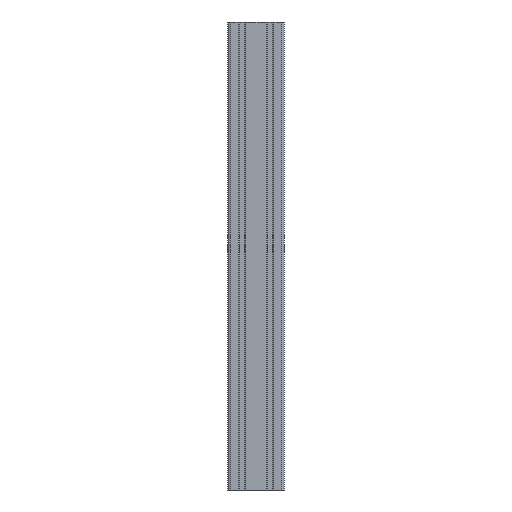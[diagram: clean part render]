
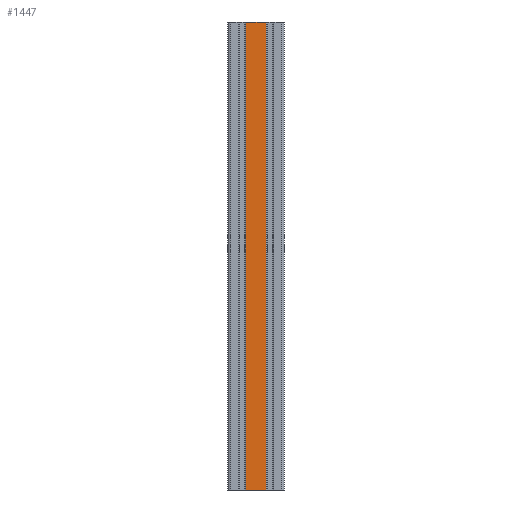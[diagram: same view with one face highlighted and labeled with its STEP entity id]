
A CAD part, left-side view. The second image highlights one B-rep face of the part: STEP entity #1447.
In plain terms, the highlighted planar face has unit normal (-1, 0, 0).
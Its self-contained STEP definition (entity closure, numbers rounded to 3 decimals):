
#1071 = VERTEX_POINT ( 'NONE', #5793 ) ;
#1072 = EDGE_CURVE ( 'NONE', #1073, #1071, #5782, .T. ) ;
#1073 = VERTEX_POINT ( 'NONE', #5784 ) ;
#1440 = ORIENTED_EDGE ( 'NONE', *, *, #1072, .F. ) ;
#1441 = ORIENTED_EDGE ( 'NONE', *, *, #1448, .F. ) ;
#1442 = EDGE_LOOP ( 'NONE', ( #1450, #1441, #1440, #1453 ) ) ;
#1447 = ADVANCED_FACE ( 'NONE', ( #6410 ), #6365, .F. ) ;
#1448 = EDGE_CURVE ( 'NONE', #1071, #3254, #6408, .T. ) ;
#1450 = ORIENTED_EDGE ( 'NONE', *, *, #3237, .T. ) ;
#1453 = ORIENTED_EDGE ( 'NONE', *, *, #1505, .T. ) ;
#1505 = EDGE_CURVE ( 'NONE', #1073, #3246, #6497, .T. ) ;
#3237 = EDGE_CURVE ( 'NONE', #3246, #3254, #9387, .T. ) ;
#3246 = VERTEX_POINT ( 'NONE', #9381 ) ;
#3254 = VERTEX_POINT ( 'NONE', #9354 ) ;
#5749 = CARTESIAN_POINT ( 'NONE',  ( -16578.137, -13704.511, 500. ) ) ;
#5780 = DIRECTION ( 'NONE',  ( 0., -1., 0. ) ) ;
#5781 = VECTOR ( 'NONE', #5780, 1000. ) ;
#5782 = LINE ( 'NONE', #5749, #5781 ) ;
#5784 = CARTESIAN_POINT ( 'NONE',  ( -16578.137, -13704.511, 500. ) ) ;
#5793 = CARTESIAN_POINT ( 'NONE',  ( -16578.137, -13726.161, 500. ) ) ;
#6365 = PLANE ( 'NONE',  #6406 ) ;
#6399 = DIRECTION ( 'NONE',  ( 0., 0., -1. ) ) ;
#6400 = VECTOR ( 'NONE', #6399, 1000. ) ;
#6403 = DIRECTION ( 'NONE',  ( 0., 1., 0. ) ) ;
#6404 = DIRECTION ( 'NONE',  ( 1., 0., 0. ) ) ;
#6405 = CARTESIAN_POINT ( 'NONE',  ( -16578.137, -13704.511, 500. ) ) ;
#6406 = AXIS2_PLACEMENT_3D ( 'NONE', #6405, #6404, #6403 ) ;
#6407 = CARTESIAN_POINT ( 'NONE',  ( -16578.137, -13726.161, 500. ) ) ;
#6408 = LINE ( 'NONE', #6407, #6400 ) ;
#6410 = FACE_OUTER_BOUND ( 'NONE', #1442, .T. ) ;
#6492 = DIRECTION ( 'NONE',  ( 0., 0., -1. ) ) ;
#6495 = VECTOR ( 'NONE', #6492, 1000. ) ;
#6496 = CARTESIAN_POINT ( 'NONE',  ( -16578.137, -13704.511, 500. ) ) ;
#6497 = LINE ( 'NONE', #6496, #6495 ) ;
#9354 = CARTESIAN_POINT ( 'NONE',  ( -16578.137, -13726.161, 0. ) ) ;
#9376 = DIRECTION ( 'NONE',  ( 0., -1., 0. ) ) ;
#9377 = VECTOR ( 'NONE', #9376, 1000. ) ;
#9378 = CARTESIAN_POINT ( 'NONE',  ( -16578.137, -13704.511, 0. ) ) ;
#9381 = CARTESIAN_POINT ( 'NONE',  ( -16578.137, -13704.511, 0. ) ) ;
#9387 = LINE ( 'NONE', #9378, #9377 ) ;
